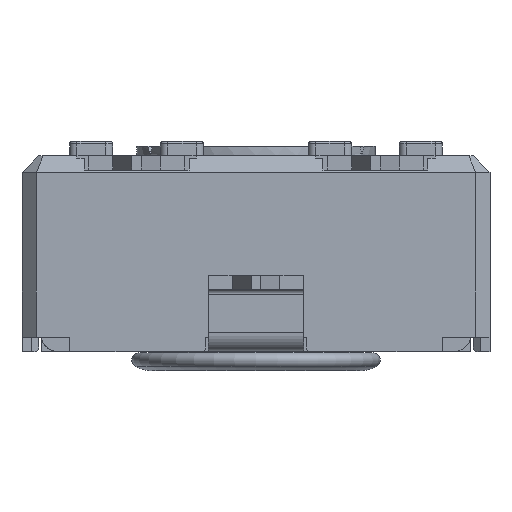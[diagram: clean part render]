
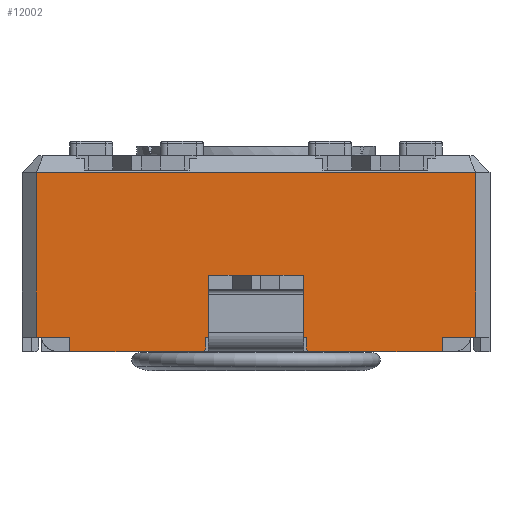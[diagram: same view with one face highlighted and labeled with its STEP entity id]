
A CAD part, front view. The second image highlights one B-rep face of the part: STEP entity #12002.
In plain terms, the highlighted planar face has unit normal (0, -1, 0).
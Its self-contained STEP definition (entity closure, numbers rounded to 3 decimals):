
#1039=FACE_OUTER_BOUND('',#1655,.T.);
#1655=EDGE_LOOP('',(#10569,#10570,#10571,#10572,#10573,#10574,#10575,#10576,
#10577,#10578,#10579,#10580,#10581,#10582,#10583,#10584));
#1728=LINE('',#16243,#3130);
#2337=LINE('',#17704,#3739);
#2343=LINE('',#17716,#3745);
#2351=LINE('',#17732,#3753);
#2357=LINE('',#17743,#3759);
#2521=LINE('',#18264,#3923);
#2527=LINE('',#18274,#3929);
#2530=LINE('',#18281,#3932);
#2543=LINE('',#18306,#3945);
#2599=LINE('',#18414,#4001);
#2601=LINE('',#18419,#4003);
#2603=LINE('',#18422,#4005);
#2605=LINE('',#18427,#4007);
#2795=LINE('',#18886,#4197);
#3038=LINE('',#19447,#4440);
#3040=LINE('',#19454,#4442);
#3130=VECTOR('',#13043,10.);
#3739=VECTOR('',#14332,10.);
#3745=VECTOR('',#14338,10.);
#3753=VECTOR('',#14348,10.);
#3759=VECTOR('',#14354,10.);
#3923=VECTOR('',#14826,10.);
#3929=VECTOR('',#14834,10.);
#3932=VECTOR('',#14841,10.);
#3945=VECTOR('',#14862,10.);
#4001=VECTOR('',#14962,10.);
#4003=VECTOR('',#14970,10.);
#4005=VECTOR('',#14974,10.);
#4007=VECTOR('',#14982,10.);
#4197=VECTOR('',#15420,10.);
#4440=VECTOR('',#15959,10.);
#4442=VECTOR('',#15971,10.);
#4512=VERTEX_POINT('',#16195);
#4525=VERTEX_POINT('',#16242);
#5037=VERTEX_POINT('',#17703);
#5042=VERTEX_POINT('',#17713);
#5043=VERTEX_POINT('',#17715);
#5049=VERTEX_POINT('',#17729);
#5050=VERTEX_POINT('',#17731);
#5055=VERTEX_POINT('',#17741);
#5203=VERTEX_POINT('',#18262);
#5204=VERTEX_POINT('',#18263);
#5207=VERTEX_POINT('',#18272);
#5208=VERTEX_POINT('',#18279);
#5209=VERTEX_POINT('',#18280);
#5217=VERTEX_POINT('',#18305);
#5367=VERTEX_POINT('',#18883);
#5368=VERTEX_POINT('',#18885);
#5638=EDGE_CURVE('',#4525,#4512,#1728,.T.);
#6373=EDGE_CURVE('',#5037,#4525,#2337,.T.);
#6379=EDGE_CURVE('',#5043,#5042,#2343,.T.);
#6387=EDGE_CURVE('',#5050,#5049,#2351,.T.);
#6393=EDGE_CURVE('',#4512,#5055,#2357,.T.);
#6635=EDGE_CURVE('',#5203,#5204,#2521,.T.);
#6641=EDGE_CURVE('',#5203,#5207,#2527,.T.);
#6644=EDGE_CURVE('',#5208,#5209,#2530,.T.);
#6657=EDGE_CURVE('',#5217,#5209,#2543,.T.);
#6713=EDGE_CURVE('',#5037,#5208,#2599,.T.);
#6715=EDGE_CURVE('',#5042,#5217,#2601,.T.);
#6717=EDGE_CURVE('',#5050,#5207,#2603,.T.);
#6719=EDGE_CURVE('',#5055,#5204,#2605,.T.);
#6946=EDGE_CURVE('',#5367,#5368,#2795,.T.);
#7225=EDGE_CURVE('',#5368,#5049,#3038,.T.);
#7227=EDGE_CURVE('',#5367,#5043,#3040,.T.);
#10569=ORIENTED_EDGE('',*,*,#6635,.F.);
#10570=ORIENTED_EDGE('',*,*,#6641,.T.);
#10571=ORIENTED_EDGE('',*,*,#6717,.F.);
#10572=ORIENTED_EDGE('',*,*,#6387,.T.);
#10573=ORIENTED_EDGE('',*,*,#7225,.F.);
#10574=ORIENTED_EDGE('',*,*,#6946,.F.);
#10575=ORIENTED_EDGE('',*,*,#7227,.T.);
#10576=ORIENTED_EDGE('',*,*,#6379,.T.);
#10577=ORIENTED_EDGE('',*,*,#6715,.T.);
#10578=ORIENTED_EDGE('',*,*,#6657,.T.);
#10579=ORIENTED_EDGE('',*,*,#6644,.F.);
#10580=ORIENTED_EDGE('',*,*,#6713,.F.);
#10581=ORIENTED_EDGE('',*,*,#6373,.T.);
#10582=ORIENTED_EDGE('',*,*,#5638,.T.);
#10583=ORIENTED_EDGE('',*,*,#6393,.T.);
#10584=ORIENTED_EDGE('',*,*,#6719,.T.);
#11203=PLANE('',#12889);
#12002=ADVANCED_FACE('',(#1039),#11203,.T.);
#12889=AXIS2_PLACEMENT_3D('',#19455,#15972,#15973);
#13043=DIRECTION('',(1.,0.,0.));
#14332=DIRECTION('',(1.,0.,0.));
#14338=DIRECTION('',(1.,0.,0.));
#14348=DIRECTION('',(1.,0.,0.));
#14354=DIRECTION('',(1.,0.,0.));
#14826=DIRECTION('',(-0.707,0.,0.707));
#14834=DIRECTION('',(1.,0.,0.));
#14841=DIRECTION('',(-0.707,0.,-0.707));
#14862=DIRECTION('',(1.,0.,0.));
#14962=DIRECTION('',(0.,0.,-1.));
#14970=DIRECTION('',(0.,0.,-1.));
#14974=DIRECTION('',(0.,0.,-1.));
#14982=DIRECTION('',(0.,0.,-1.));
#15420=DIRECTION('',(1.,0.,0.));
#15959=DIRECTION('',(0.,0.,-1.));
#15971=DIRECTION('',(0.,0.,-1.));
#15972=DIRECTION('center_axis',(0.,-1.,0.));
#15973=DIRECTION('ref_axis',(0.,0.,-1.));
#16195=CARTESIAN_POINT('',(-25.448,-17.99,-3.8));
#16242=CARTESIAN_POINT('',(-27.448,-17.99,-3.8));
#16243=CARTESIAN_POINT('',(-21.848,-17.99,-3.8));
#17703=CARTESIAN_POINT('',(-27.498,-17.99,-3.8));
#17704=CARTESIAN_POINT('',(-21.848,-17.99,-3.8));
#17713=CARTESIAN_POINT('',(-30.348,-17.99,-3.8));
#17715=CARTESIAN_POINT('',(-31.048,-17.99,-3.8));
#17716=CARTESIAN_POINT('',(-21.848,-17.99,-3.8));
#17729=CARTESIAN_POINT('',(-21.848,-17.99,-3.8));
#17731=CARTESIAN_POINT('',(-22.548,-17.99,-3.8));
#17732=CARTESIAN_POINT('',(-21.848,-17.99,-3.8));
#17741=CARTESIAN_POINT('',(-25.398,-17.99,-3.8));
#17743=CARTESIAN_POINT('',(-21.848,-17.99,-3.8));
#18262=CARTESIAN_POINT('',(-25.348,-17.99,-4.1));
#18263=CARTESIAN_POINT('',(-25.398,-17.99,-4.05));
#18264=CARTESIAN_POINT('',(-27.81,-17.99,-1.637));
#18272=CARTESIAN_POINT('',(-22.548,-17.99,-4.1));
#18274=CARTESIAN_POINT('',(-21.848,-17.99,-4.1));
#18279=CARTESIAN_POINT('',(-27.498,-17.99,-4.05));
#18280=CARTESIAN_POINT('',(-27.548,-17.99,-4.1));
#18281=CARTESIAN_POINT('',(-27.385,-17.99,-3.938));
#18305=CARTESIAN_POINT('',(-30.348,-17.99,-4.1));
#18306=CARTESIAN_POINT('',(-21.848,-17.99,-4.1));
#18414=CARTESIAN_POINT('',(-27.498,-17.99,-3.8));
#18419=CARTESIAN_POINT('',(-30.348,-17.99,-3.8));
#18422=CARTESIAN_POINT('',(-22.548,-17.99,-3.8));
#18427=CARTESIAN_POINT('',(-25.398,-17.99,-3.8));
#18883=CARTESIAN_POINT('',(-31.048,-17.99,-0.35));
#18885=CARTESIAN_POINT('',(-21.848,-17.99,-0.35));
#18886=CARTESIAN_POINT('',(-28.748,-17.99,-0.35));
#19447=CARTESIAN_POINT('',(-21.848,-17.99,0.));
#19454=CARTESIAN_POINT('',(-31.048,-17.99,0.));
#19455=CARTESIAN_POINT('Origin',(-31.048,-17.99,0.));
